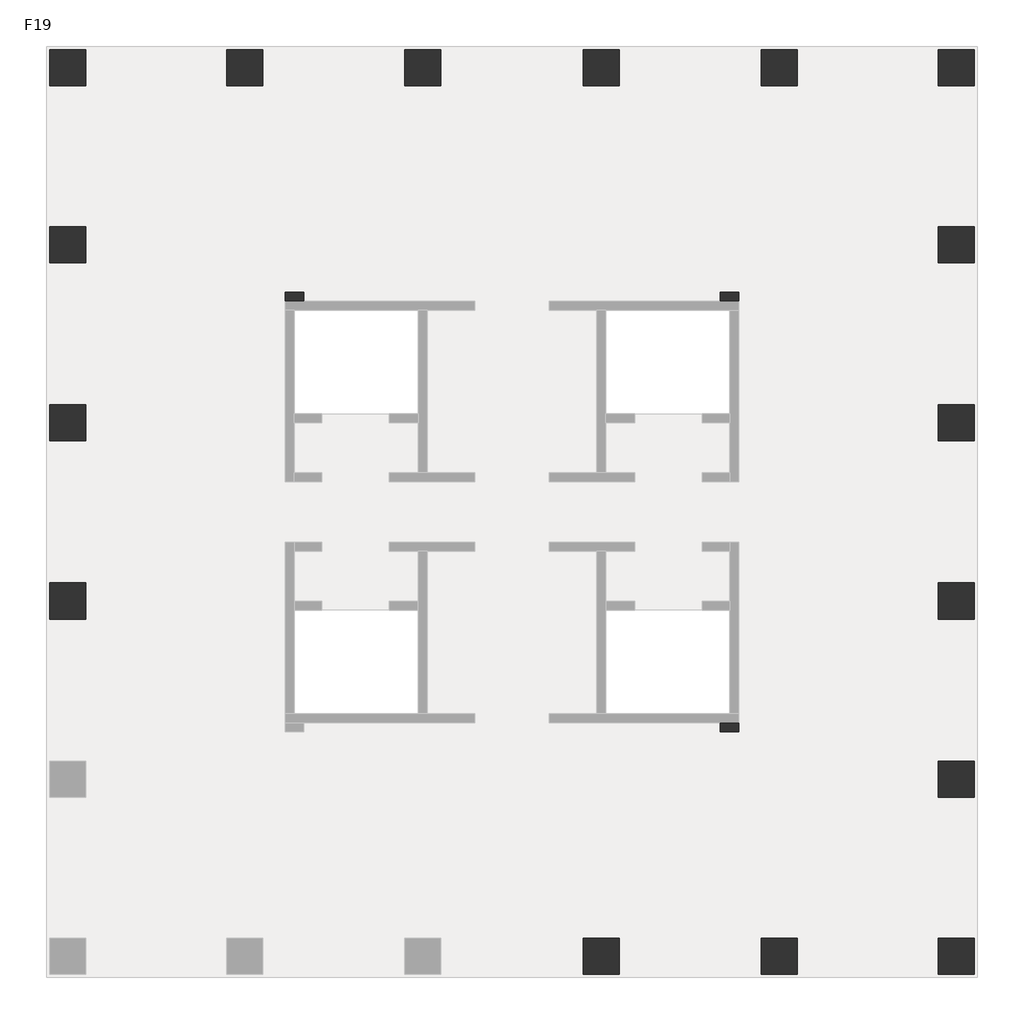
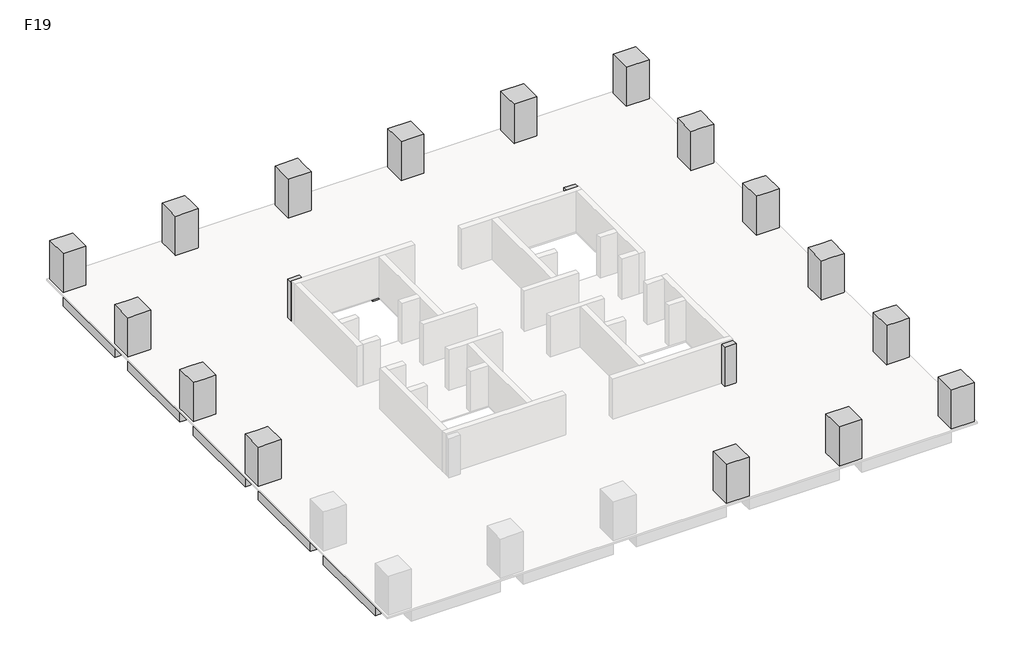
# One storey, part 2 of 2: 19 columns, 17 beams.
"""IFC4 building model written with IfcOpenShell, lengths in millimetres."""

from ifc_helpers import new_model, si_unit, frame, origin, place, context, project, spatial, polyline, outline, extrude, faceted_brep, element, save

model = new_model("IFC4")

# Units and contexts
model_context = context("Model", 3, world=origin())
ifc_project = project(units=[si_unit("LENGTHUNIT", "METRE", prefix="MILLI")], contexts=[model_context])

# Site, building, storey
site = spatial("IfcSite", under=ifc_project)
building = spatial("IfcBuilding", under=site)
storey = spatial("IfcBuildingStorey", under=building, Name="F19", Elevation=75000.0)

# Beams
placement = place(None, origin())
element("IfcBeam", 1, ObjectType="混凝土 - 矩形梁 : KL(5)-800x1000", at=placement, inside=storey, context=model_context, shape_type="SweptSolid", body=[
    extrude(outline(polyline([(25327.3257831, 27051.0498658), (25327.3257831, 26251.0498658), (19077.3257831, 26251.0498658), (19077.3257831, 27051.0498658), (25327.3257831, 27051.0498658)])), frame((0.0, 0.0, 74000.0), z_axis=(0.0, 0.0, 1.0), x_axis=(1.0, 0.0, 0.0)), (0.0, 0.0, 1.0), 900.0),
    extrude(outline(polyline([(-12472.6742169, 26251.0498658), (-12472.6742169, 27051.0498658), (-6222.6742169, 27051.0498658), (-6222.6742169, 26251.0498658), (-12472.6742169, 26251.0498658)])), frame((0.0, 0.0, 74000.0), z_axis=(0.0, 0.0, 1.0), x_axis=(1.0, 0.0, 0.0)), (0.0, 0.0, 1.0), 900.0),
    extrude(outline(polyline([(-4622.6742169, 26251.0498658), (-4622.6742169, 27051.0498658), (1677.3257831, 27051.0498658), (1677.3257831, 26251.0498658), (-4622.6742169, 26251.0498658)])), frame((0.0, 0.0, 74000.0), z_axis=(0.0, 0.0, 1.0), x_axis=(1.0, 0.0, 0.0)), (0.0, 0.0, 1.0), 900.0),
    extrude(outline(polyline([(3277.3257831, 26251.0498658), (3277.3257831, 27051.0498658), (9577.3257831, 27051.0498658), (9577.3257831, 26251.0498658), (3277.3257831, 26251.0498658)])), frame((0.0, 0.0, 74000.0), z_axis=(0.0, 0.0, 1.0), x_axis=(1.0, 0.0, 0.0)), (0.0, 0.0, 1.0), 900.0),
    extrude(outline(polyline([(11177.3257831, 26251.0498658), (11177.3257831, 27051.0498658), (17477.3257831, 27051.0498658), (17477.3257831, 26251.0498658), (11177.3257831, 26251.0498658)])), frame((0.0, 0.0, 74000.0), z_axis=(0.0, 0.0, 1.0), x_axis=(1.0, 0.0, 0.0)), (0.0, 0.0, 1.0), 900.0),
])
element("IfcBeam", 2, ObjectType="混凝土 - 矩形梁 : KL(5)-800x1000", at=placement, inside=storey, context=model_context, shape_type="SweptSolid", body=[
    extrude(outline(polyline([(26927.3257831, -12348.9501342), (26127.3257831, -12348.9501342), (26127.3257831, -6098.9501342), (26927.3257831, -6098.9501342), (26927.3257831, -12348.9501342)])), frame((0.0, 0.0, 74000.0), z_axis=(0.0, 0.0, 1.0), x_axis=(1.0, 0.0, 0.0)), (0.0, 0.0, 1.0), 900.0),
    extrude(outline(polyline([(26127.3257831, 25451.0498658), (26927.3257831, 25451.0498658), (26927.3257831, 19201.0498658), (26127.3257831, 19201.0498658), (26127.3257831, 25451.0498658)])), frame((0.0, 0.0, 74000.0), z_axis=(0.0, 0.0, 1.0), x_axis=(1.0, 0.0, 0.0)), (0.0, 0.0, 1.0), 900.0),
    extrude(outline(polyline([(26127.3257831, 17601.0498658), (26927.3257831, 17601.0498658), (26927.3257831, 11301.0498658), (26127.3257831, 11301.0498658), (26127.3257831, 17601.0498658)])), frame((0.0, 0.0, 74000.0), z_axis=(0.0, 0.0, 1.0), x_axis=(1.0, 0.0, 0.0)), (0.0, 0.0, 1.0), 900.0),
    extrude(outline(polyline([(26127.3257831, 9701.0498658), (26927.3257831, 9701.0498658), (26927.3257831, 3401.0498658), (26127.3257831, 3401.0498658), (26127.3257831, 9701.0498658)])), frame((0.0, 0.0, 74000.0), z_axis=(0.0, 0.0, 1.0), x_axis=(1.0, 0.0, 0.0)), (0.0, 0.0, 1.0), 900.0),
    extrude(outline(polyline([(26127.3257831, 1801.0498658), (26927.3257831, 1801.0498658), (26927.3257831, -4498.9501342), (26127.3257831, -4498.9501342), (26127.3257831, 1801.0498658)])), frame((0.0, 0.0, 74000.0), z_axis=(0.0, 0.0, 1.0), x_axis=(1.0, 0.0, 0.0)), (0.0, 0.0, 1.0), 900.0),
])
element("IfcBeam", 3, ObjectType="混凝土 - 矩形梁 : KL(5)-800x1000", at=placement, inside=storey, context=model_context, shape_type="SweptSolid", body=[
    extrude(outline(polyline([(-14072.6742169, 25451.0498658), (-13272.6742169, 25451.0498658), (-13272.6742169, 19201.0498658), (-14072.6742169, 19201.0498658), (-14072.6742169, 25451.0498658)])), frame((0.0, 0.0, 74000.0), z_axis=(0.0, 0.0, 1.0), x_axis=(1.0, 0.0, 0.0)), (0.0, 0.0, 1.0), 900.0),
    extrude(outline(polyline([(-13272.6742169, -12348.9501342), (-14072.6742169, -12348.9501342), (-14072.6742169, -6098.9501342), (-13272.6742169, -6098.9501342), (-13272.6742169, -12348.9501342)])), frame((0.0, 0.0, 74000.0), z_axis=(0.0, 0.0, 1.0), x_axis=(1.0, 0.0, 0.0)), (0.0, 0.0, 1.0), 900.0),
    extrude(outline(polyline([(-14072.6742169, 17601.0498658), (-13272.6742169, 17601.0498658), (-13272.6742169, 11301.0498658), (-14072.6742169, 11301.0498658), (-14072.6742169, 17601.0498658)])), frame((0.0, 0.0, 74000.0), z_axis=(0.0, 0.0, 1.0), x_axis=(1.0, 0.0, 0.0)), (0.0, 0.0, 1.0), 900.0),
    extrude(outline(polyline([(-14072.6742169, 9701.0498658), (-13272.6742169, 9701.0498658), (-13272.6742169, 3401.0498658), (-14072.6742169, 3401.0498658), (-14072.6742169, 9701.0498658)])), frame((0.0, 0.0, 74000.0), z_axis=(0.0, 0.0, 1.0), x_axis=(1.0, 0.0, 0.0)), (0.0, 0.0, 1.0), 900.0),
    extrude(outline(polyline([(-14072.6742169, 1801.0498658), (-13272.6742169, 1801.0498658), (-13272.6742169, -4498.9501342), (-14072.6742169, -4498.9501342), (-14072.6742169, 1801.0498658)])), frame((0.0, 0.0, 74000.0), z_axis=(0.0, 0.0, 1.0), x_axis=(1.0, 0.0, 0.0)), (0.0, 0.0, 1.0), 900.0),
])
element("IfcBeam", 4, ObjectType="混凝土 - 矩形梁 : L1-800x500", at=placement, inside=storey, context=model_context, shape_type="SweptSolid", body=[
    extrude(outline(polyline([(-12472.6742169, 2201.0498658), (-12472.6742169, 3001.0498658), (-3622.6742169, 3001.0498658), (-3622.6742169, 2201.0498658), (-12472.6742169, 2201.0498658)])), frame((0.0, 0.0, 74500.0), z_axis=(0.0, 0.0, 1.0), x_axis=(1.0, 0.0, 0.0)), (0.0, 0.0, 1.0), 400.0),
])
element("IfcBeam", 5, ObjectType="混凝土 - 矩形梁 : L1-800x500", at=placement, inside=storey, context=model_context, shape_type="SweptSolid", body=[
    extrude(outline(polyline([(-12472.6742169, 10101.0498658), (-12472.6742169, 10901.0498658), (-3622.6742169, 10901.0498658), (-3622.6742169, 10101.0498658), (-12472.6742169, 10101.0498658)])), frame((0.0, 0.0, 74500.0), z_axis=(0.0, 0.0, 1.0), x_axis=(1.0, 0.0, 0.0)), (0.0, 0.0, 1.0), 400.0),
])
element("IfcBeam", 6, ObjectType="混凝土 - 矩形梁 : L1-800x500", at=placement, inside=storey, context=model_context, shape_type="Brep", body=[
    faceted_brep([(-12472.6742169, 17789.85471, 74500.0), (-3622.6742169, 15588.3621727, 74500.0), (-3622.6742169, 15588.3621727, 74900.0), (-12472.6742169, 17789.85471, 74900.0), (-3173.6696907, 16301.0498658, 74500.0), (-3622.6742169, 16301.0498658, 74500.0), (-3622.6742169, 15901.0498658, 74500.0), (-12472.6742169, 18614.2350714, 74500.0), (-3746.9473979, 16443.6562607, 74500.0), (-12472.6742169, 18614.2350714, 74900.0), (-3746.9473979, 16443.6562607, 74900.0), (-3173.6696907, 16301.0498658, 74900.0), (-3622.6742169, 16301.0498658, 74900.0)], [[[0, 1, 2, 3]], [[4, 5, 6, 1, 0, 7, 8]], [[4, 8, 7, 9, 10, 11]], [[6, 5, 12, 2, 1]], [[5, 4, 11, 12]], [[7, 0, 3, 9]], [[3, 2, 12, 11, 10, 9]]]),
])
element("IfcBeam", 7, ObjectType="混凝土 - 矩形梁 : L1-800x500", at=placement, inside=storey, context=model_context, shape_type="SweptSolid", body=[
    extrude(outline(polyline([(-3173.6696907, 16301.0498658), (-3746.9473979, 16443.6562607), (-5661.5624638, 25451.0498658), (-4843.6893517, 25451.0498658), (-2898.7618154, 16301.0498658), (-3173.6696907, 16301.0498658)])), frame((0.0, 0.0, 74500.0), z_axis=(0.0, 0.0, 1.0), x_axis=(1.0, 0.0, 0.0)), (0.0, 0.0, 1.0), 400.0),
])
element("IfcBeam", 8, ObjectType="混凝土 - 矩形梁 : L1-800x500", at=placement, inside=storey, context=model_context, shape_type="SweptSolid", body=[
    extrude(outline(polyline([(2077.3257831, 25451.0498658), (2877.3257831, 25451.0498658), (2877.3257831, 15901.0498658), (2077.3257831, 15901.0498658), (2077.3257831, 25451.0498658)])), frame((0.0, 0.0, 74500.0), z_axis=(0.0, 0.0, 1.0), x_axis=(1.0, 0.0, 0.0)), (0.0, 0.0, 1.0), 400.0),
])
element("IfcBeam", 9, ObjectType="混凝土 - 矩形梁 : L1-800x500", at=placement, inside=storey, context=model_context, shape_type="SweptSolid", body=[
    extrude(outline(polyline([(9977.3257831, 25451.0498658), (10777.3257831, 25451.0498658), (10777.3257831, 15901.0498658), (9977.3257831, 15901.0498658), (9977.3257831, 25451.0498658)])), frame((0.0, 0.0, 74500.0), z_axis=(0.0, 0.0, 1.0), x_axis=(1.0, 0.0, 0.0)), (0.0, 0.0, 1.0), 400.0),
])
element("IfcBeam", 10, ObjectType="混凝土 - 矩形梁 : L1-800x500", at=placement, inside=storey, context=model_context, shape_type="SweptSolid", body=[
    extrude(outline(polyline([(2877.3257831, -12348.9501342), (2077.3257831, -12348.9501342), (2077.3257831, -2798.9501342), (2877.3257831, -2798.9501342), (2877.3257831, -12348.9501342)])), frame((0.0, 0.0, 74500.0), z_axis=(0.0, 0.0, 1.0), x_axis=(1.0, 0.0, 0.0)), (0.0, 0.0, 1.0), 400.0),
])
element("IfcBeam", 11, ObjectType="混凝土 - 矩形梁 : L1-800x500", at=placement, inside=storey, context=model_context, shape_type="SweptSolid", body=[
    extrude(outline(polyline([(10777.3257831, -12348.9501342), (9977.3257831, -12348.9501342), (9977.3257831, -2798.9501342), (10777.3257831, -2798.9501342), (10777.3257831, -12348.9501342)])), frame((0.0, 0.0, 74500.0), z_axis=(0.0, 0.0, 1.0), x_axis=(1.0, 0.0, 0.0)), (0.0, 0.0, 1.0), 400.0),
])
element("IfcBeam", 12, ObjectType="混凝土 - 矩形梁 : L1-800x500", at=placement, inside=storey, context=model_context, shape_type="Brep", body=[
    faceted_brep([(25327.3257831, -4687.7549784, 74500.0), (16477.3257831, -2486.2624411, 74500.0), (16477.3257831, -2486.2624411, 74900.0), (25327.3257831, -4687.7549784, 74900.0), (16028.3212569, -3198.9501342, 74500.0), (16477.3257831, -3198.9501342, 74500.0), (16477.3257831, -2798.9501342, 74500.0), (25327.3257831, -5512.1353397, 74500.0), (16601.5989641, -3341.556529, 74500.0), (25327.3257831, -5512.1353397, 74900.0), (16601.5989641, -3341.556529, 74900.0), (16028.3212569, -3198.9501342, 74900.0), (16477.3257831, -3198.9501342, 74900.0)], [[[0, 1, 2, 3]], [[4, 5, 6, 1, 0, 7, 8]], [[4, 8, 7, 9, 10, 11]], [[6, 5, 12, 2, 1]], [[5, 4, 11, 12]], [[7, 0, 3, 9]], [[3, 2, 12, 11, 10, 9]]]),
])
element("IfcBeam", 13, ObjectType="混凝土 - 矩形梁 : L1-800x500", at=placement, inside=storey, context=model_context, shape_type="SweptSolid", body=[
    extrude(outline(polyline([(16028.3212569, -3198.9501342), (16601.5989641, -3341.556529), (18516.21403, -12348.9501342), (17698.3409179, -12348.9501342), (15753.4133817, -3198.9501342), (16028.3212569, -3198.9501342)])), frame((0.0, 0.0, 74500.0), z_axis=(0.0, 0.0, 1.0), x_axis=(1.0, 0.0, 0.0)), (0.0, 0.0, 1.0), 400.0),
])
element("IfcBeam", 14, ObjectType="混凝土 - 矩形梁 : L1-800x500", at=placement, inside=storey, context=model_context, shape_type="SweptSolid", body=[
    extrude(outline(polyline([(25327.3257831, 3001.0498658), (25327.3257831, 2201.0498658), (16477.3257831, 2201.0498658), (16477.3257831, 3001.0498658), (25327.3257831, 3001.0498658)])), frame((0.0, 0.0, 74500.0), z_axis=(0.0, 0.0, 1.0), x_axis=(1.0, 0.0, 0.0)), (0.0, 0.0, 1.0), 400.0),
])
element("IfcBeam", 15, ObjectType="混凝土 - 矩形梁 : L1-800x500", at=placement, inside=storey, context=model_context, shape_type="SweptSolid", body=[
    extrude(outline(polyline([(25327.3257831, 10901.0498658), (25327.3257831, 10101.0498658), (16477.3257831, 10101.0498658), (16477.3257831, 10901.0498658), (25327.3257831, 10901.0498658)])), frame((0.0, 0.0, 74500.0), z_axis=(0.0, 0.0, 1.0), x_axis=(1.0, 0.0, 0.0)), (0.0, 0.0, 1.0), 400.0),
])
element("IfcBeam", 16, ObjectType="混凝土 - 矩形梁 : L1-800x500", at=placement, inside=storey, context=model_context, shape_type="Brep", body=[
    faceted_brep([(25327.3257831, 18610.6867312, 74500.0), (16590.8993897, 16393.3196262, 74500.0), (16227.3565337, 16301.0498658, 74500.0), (16227.3565337, 16301.0498658, 74900.0), (16590.8993897, 16393.3196262, 74900.0), (25327.3257831, 18610.6867312, 74900.0), (16477.3257831, 16301.0498658, 74500.0), (25327.3257831, 17785.3216299, 74500.0), (16477.3257831, 15539.1287365, 74500.0), (16477.3257831, 15901.0498658, 74500.0), (25327.3257831, 17785.3216299, 74900.0), (16477.3257831, 15539.1287365, 74900.0), (16477.3257831, 16301.0498658, 74900.0)], [[[0, 1, 2, 3, 4, 5]], [[6, 2, 1, 0, 7, 8, 9]], [[8, 7, 10, 11]], [[9, 8, 11, 12, 6]], [[2, 6, 12, 3]], [[7, 0, 5, 10]], [[5, 4, 3, 12, 11, 10]]]),
])
element("IfcBeam", 17, ObjectType="混凝土 - 矩形梁 : L1-800x500", at=placement, inside=storey, context=model_context, shape_type="SweptSolid", body=[
    extrude(outline(polyline([(16590.8993897, 16393.3196262), (16227.3565337, 16301.0498658), (15753.4133817, 16301.0498658), (17698.3409179, 25451.0498658), (18516.21403, 25451.0498658), (16590.8993897, 16393.3196262)])), frame((0.0, 0.0, 74500.0), z_axis=(0.0, 0.0, 1.0), x_axis=(1.0, 0.0, 0.0)), (0.0, 0.0, 1.0), 400.0),
])

# Columns
element("IfcColumn", 18, ObjectType="混凝土 - 矩形 - 柱 : Z1-1600x1600", at=placement, inside=storey, context=model_context, shape_type="SweptSolid", body=[
    extrude(outline(polyline([(-12472.6742169, 27051.0498658), (-12472.6742169, 25451.0498658), (-14072.6742169, 25451.0498658), (-14072.6742169, 27051.0498658), (-12472.6742169, 27051.0498658)])), frame((0.0, 0.0, 75000.0), z_axis=(0.0, 0.0, 1.0), x_axis=(1.0, 0.0, 0.0)), (0.0, 0.0, 1.0), 2900.0),
])
element("IfcColumn", 19, ObjectType="混凝土 - 矩形 - 柱 : Z1-1600x1600", at=placement, inside=storey, context=model_context, shape_type="Brep", body=[
    faceted_brep([(-4622.6742169, 27051.0498658, 75000.0), (-4622.6742169, 25451.0498658, 75000.0), (-6222.6742169, 25451.0498658, 75000.0), (-6222.6742169, 27051.0498658, 75000.0), (-4622.6742169, 27051.0498658, 77000.0), (-4622.6742169, 27051.0498658, 77900.0), (-4622.6742169, 26251.0498658, 77900.0), (-4622.6742169, 25451.0498658, 77900.0), (-6222.6742169, 25451.0498658, 77900.0), (-6222.6742169, 26251.0498658, 77900.0), (-6222.6742169, 27051.0498658, 77900.0), (-6222.6742169, 27051.0498658, 77000.0)], [[[0, 1, 2, 3]], [[1, 0, 4, 5, 6, 7]], [[2, 1, 7, 8]], [[3, 2, 8, 9, 10, 11]], [[0, 3, 11, 10, 5, 4]], [[7, 6, 5, 10, 9, 8]]]),
])
element("IfcColumn", 20, ObjectType="混凝土 - 矩形 - 柱 : Z1-1600x1600", at=placement, inside=storey, context=model_context, shape_type="Brep", body=[
    faceted_brep([(-12472.6742169, 19201.0498658, 75000.0), (-12472.6742169, 17601.0498658, 75000.0), (-14072.6742169, 17601.0498658, 75000.0), (-14072.6742169, 19201.0498658, 75000.0), (-12472.6742169, 19201.0498658, 77900.0), (-12472.6742169, 17601.0498658, 77900.0), (-13272.6742169, 17601.0498658, 77900.0), (-14072.6742169, 17601.0498658, 77900.0), (-14072.6742169, 17601.0498658, 77000.0), (-14072.6742169, 19201.0498658, 77900.0), (-14072.6742169, 19201.0498658, 77000.0), (-13272.6742169, 19201.0498658, 77900.0)], [[[0, 1, 2, 3]], [[1, 0, 4, 5]], [[2, 1, 5, 6, 7, 8]], [[3, 2, 8, 7, 9, 10]], [[0, 3, 10, 9, 11, 4]], [[5, 4, 11, 9, 7, 6]]]),
])
element("IfcColumn", 21, ObjectType="混凝土 - 矩形 - 柱 : Z1-1600x1600", at=placement, inside=storey, context=model_context, shape_type="Brep", body=[
    faceted_brep([(-12472.6742169, 11301.0498658, 75000.0), (-12472.6742169, 9701.0498658, 75000.0), (-14072.6742169, 9701.0498658, 75000.0), (-14072.6742169, 11301.0498658, 75000.0), (-12472.6742169, 11301.0498658, 77900.0), (-12472.6742169, 9701.0498658, 77900.0), (-13272.6742169, 9701.0498658, 77900.0), (-14072.6742169, 9701.0498658, 77900.0), (-14072.6742169, 9701.0498658, 77000.0), (-14072.6742169, 11301.0498658, 77900.0), (-14072.6742169, 11301.0498658, 77000.0), (-13272.6742169, 11301.0498658, 77900.0)], [[[0, 1, 2, 3]], [[1, 0, 4, 5]], [[2, 1, 5, 6, 7, 8]], [[3, 2, 8, 7, 9, 10]], [[0, 3, 10, 9, 11, 4]], [[5, 4, 11, 9, 7, 6]]]),
])
element("IfcColumn", 22, ObjectType="混凝土 - 矩形 - 柱 : Z1-1600x1600", at=placement, inside=storey, context=model_context, shape_type="Brep", body=[
    faceted_brep([(-12472.6742169, 3401.0498658, 75000.0), (-12472.6742169, 1801.0498658, 75000.0), (-14072.6742169, 1801.0498658, 75000.0), (-14072.6742169, 3401.0498658, 75000.0), (-12472.6742169, 3401.0498658, 77900.0), (-12472.6742169, 1801.0498658, 77900.0), (-13272.6742169, 1801.0498658, 77900.0), (-14072.6742169, 1801.0498658, 77900.0), (-14072.6742169, 1801.0498658, 77000.0), (-14072.6742169, 3401.0498658, 77900.0), (-14072.6742169, 3401.0498658, 77000.0), (-13272.6742169, 3401.0498658, 77900.0)], [[[0, 1, 2, 3]], [[1, 0, 4, 5]], [[2, 1, 5, 6, 7, 8]], [[3, 2, 8, 7, 9, 10]], [[0, 3, 10, 9, 11, 4]], [[5, 4, 11, 9, 7, 6]]]),
])
element("IfcColumn", 23, ObjectType="混凝土 - 矩形 - 柱 : Z1-1600x1600", at=placement, inside=storey, context=model_context, shape_type="SweptSolid", body=[
    extrude(outline(polyline([(25327.3257831, 27051.0498658), (26927.3257831, 27051.0498658), (26927.3257831, 25451.0498658), (25327.3257831, 25451.0498658), (25327.3257831, 27051.0498658)])), frame((0.0, 0.0, 75000.0), z_axis=(0.0, 0.0, 1.0), x_axis=(1.0, 0.0, 0.0)), (0.0, 0.0, 1.0), 2900.0),
])
element("IfcColumn", 24, ObjectType="混凝土 - 矩形 - 柱 : Z1-1600x1600", at=placement, inside=storey, context=model_context, shape_type="Brep", body=[
    faceted_brep([(25327.3257831, 19201.0498658, 75000.0), (26927.3257831, 19201.0498658, 75000.0), (26927.3257831, 17601.0498658, 75000.0), (25327.3257831, 17601.0498658, 75000.0), (25327.3257831, 17601.0498658, 77900.0), (25327.3257831, 19201.0498658, 77900.0), (26927.3257831, 17601.0498658, 77000.0), (26927.3257831, 17601.0498658, 77900.0), (26127.3257831, 17601.0498658, 77900.0), (26927.3257831, 19201.0498658, 77000.0), (26927.3257831, 19201.0498658, 77900.0), (26127.3257831, 19201.0498658, 77900.0)], [[[0, 1, 2, 3]], [[0, 3, 4, 5]], [[3, 2, 6, 7, 8, 4]], [[2, 1, 9, 10, 7, 6]], [[1, 0, 5, 11, 10, 9]], [[5, 4, 8, 7, 10, 11]]]),
])
element("IfcColumn", 25, ObjectType="混凝土 - 矩形 - 柱 : Z1-1600x1600", at=placement, inside=storey, context=model_context, shape_type="Brep", body=[
    faceted_brep([(25327.3257831, 11301.0498658, 75000.0), (26927.3257831, 11301.0498658, 75000.0), (26927.3257831, 9701.0498658, 75000.0), (25327.3257831, 9701.0498658, 75000.0), (25327.3257831, 9701.0498658, 77900.0), (25327.3257831, 11301.0498658, 77900.0), (26927.3257831, 9701.0498658, 77000.0), (26927.3257831, 9701.0498658, 77900.0), (26127.3257831, 9701.0498658, 77900.0), (26927.3257831, 11301.0498658, 77000.0), (26927.3257831, 11301.0498658, 77900.0), (26127.3257831, 11301.0498658, 77900.0)], [[[0, 1, 2, 3]], [[0, 3, 4, 5]], [[3, 2, 6, 7, 8, 4]], [[2, 1, 9, 10, 7, 6]], [[1, 0, 5, 11, 10, 9]], [[5, 4, 8, 7, 10, 11]]]),
])
element("IfcColumn", 26, ObjectType="混凝土 - 矩形 - 柱 : Z1-1600x1600", at=placement, inside=storey, context=model_context, shape_type="Brep", body=[
    faceted_brep([(25327.3257831, 3401.0498658, 75000.0), (26927.3257831, 3401.0498658, 75000.0), (26927.3257831, 1801.0498658, 75000.0), (25327.3257831, 1801.0498658, 75000.0), (25327.3257831, 1801.0498658, 77900.0), (25327.3257831, 3401.0498658, 77900.0), (26927.3257831, 1801.0498658, 77000.0), (26927.3257831, 1801.0498658, 77900.0), (26127.3257831, 1801.0498658, 77900.0), (26927.3257831, 3401.0498658, 77000.0), (26927.3257831, 3401.0498658, 77900.0), (26127.3257831, 3401.0498658, 77900.0)], [[[0, 1, 2, 3]], [[0, 3, 4, 5]], [[3, 2, 6, 7, 8, 4]], [[2, 1, 9, 10, 7, 6]], [[1, 0, 5, 11, 10, 9]], [[5, 4, 8, 7, 10, 11]]]),
])
element("IfcColumn", 27, ObjectType="混凝土 - 矩形 - 柱 : Z1-1600x1600", at=placement, inside=storey, context=model_context, shape_type="Brep", body=[
    faceted_brep([(25327.3257831, -4498.9501342, 75000.0), (26927.3257831, -4498.9501342, 75000.0), (26927.3257831, -6098.9501342, 75000.0), (25327.3257831, -6098.9501342, 75000.0), (25327.3257831, -6098.9501342, 77900.0), (25327.3257831, -4498.9501342, 77900.0), (26927.3257831, -6098.9501342, 77000.0), (26927.3257831, -6098.9501342, 77900.0), (26127.3257831, -6098.9501342, 77900.0), (26927.3257831, -4498.9501342, 77000.0), (26927.3257831, -4498.9501342, 77900.0), (26127.3257831, -4498.9501342, 77900.0)], [[[0, 1, 2, 3]], [[0, 3, 4, 5]], [[3, 2, 6, 7, 8, 4]], [[2, 1, 9, 10, 7, 6]], [[1, 0, 5, 11, 10, 9]], [[5, 4, 8, 7, 10, 11]]]),
])
element("IfcColumn", 28, ObjectType="混凝土 - 矩形 - 柱 : Z1-1600x1600", at=placement, inside=storey, context=model_context, shape_type="SweptSolid", body=[
    extrude(outline(polyline([(25327.3257831, -12348.9501342), (26927.3257831, -12348.9501342), (26927.3257831, -13948.9501342), (25327.3257831, -13948.9501342), (25327.3257831, -12348.9501342)])), frame((0.0, 0.0, 75000.0), z_axis=(0.0, 0.0, 1.0), x_axis=(1.0, 0.0, 0.0)), (0.0, 0.0, 1.0), 2900.0),
])
element("IfcColumn", 29, ObjectType="混凝土 - 矩形 - 柱 : Z1-1600x1600", at=placement, inside=storey, context=model_context, shape_type="Brep", body=[
    faceted_brep([(3277.3257831, 27051.0498658, 75000.0), (3277.3257831, 25451.0498658, 75000.0), (1677.3257831, 25451.0498658, 75000.0), (1677.3257831, 27051.0498658, 75000.0), (3277.3257831, 27051.0498658, 77000.0), (3277.3257831, 27051.0498658, 77900.0), (3277.3257831, 26251.0498658, 77900.0), (3277.3257831, 25451.0498658, 77900.0), (1677.3257831, 25451.0498658, 77900.0), (1677.3257831, 26251.0498658, 77900.0), (1677.3257831, 27051.0498658, 77900.0), (1677.3257831, 27051.0498658, 77000.0)], [[[0, 1, 2, 3]], [[1, 0, 4, 5, 6, 7]], [[2, 1, 7, 8]], [[3, 2, 8, 9, 10, 11]], [[0, 3, 11, 10, 5, 4]], [[7, 6, 5, 10, 9, 8]]]),
])
element("IfcColumn", 30, ObjectType="混凝土 - 矩形 - 柱 : Z1-1600x1600", at=placement, inside=storey, context=model_context, shape_type="Brep", body=[
    faceted_brep([(11177.3257831, 27051.0498658, 75000.0), (11177.3257831, 25451.0498658, 75000.0), (9577.3257831, 25451.0498658, 75000.0), (9577.3257831, 27051.0498658, 75000.0), (11177.3257831, 27051.0498658, 77000.0), (11177.3257831, 27051.0498658, 77900.0), (11177.3257831, 26251.0498658, 77900.0), (11177.3257831, 25451.0498658, 77900.0), (9577.3257831, 25451.0498658, 77900.0), (9577.3257831, 26251.0498658, 77900.0), (9577.3257831, 27051.0498658, 77900.0), (9577.3257831, 27051.0498658, 77000.0)], [[[0, 1, 2, 3]], [[1, 0, 4, 5, 6, 7]], [[2, 1, 7, 8]], [[3, 2, 8, 9, 10, 11]], [[0, 3, 11, 10, 5, 4]], [[7, 6, 5, 10, 9, 8]]]),
])
element("IfcColumn", 31, ObjectType="混凝土 - 矩形 - 柱 : Z1-1600x1600", at=placement, inside=storey, context=model_context, shape_type="Brep", body=[
    faceted_brep([(19077.3257831, 27051.0498658, 75000.0), (19077.3257831, 25451.0498658, 75000.0), (17477.3257831, 25451.0498658, 75000.0), (17477.3257831, 27051.0498658, 75000.0), (19077.3257831, 27051.0498658, 77000.0), (19077.3257831, 27051.0498658, 77900.0), (19077.3257831, 26251.0498658, 77900.0), (19077.3257831, 25451.0498658, 77900.0), (17477.3257831, 25451.0498658, 77900.0), (17477.3257831, 26251.0498658, 77900.0), (17477.3257831, 27051.0498658, 77900.0), (17477.3257831, 27051.0498658, 77000.0)], [[[0, 1, 2, 3]], [[1, 0, 4, 5, 6, 7]], [[2, 1, 7, 8]], [[3, 2, 8, 9, 10, 11]], [[0, 3, 11, 10, 5, 4]], [[7, 6, 5, 10, 9, 8]]]),
])
element("IfcColumn", 32, ObjectType="混凝土 - 矩形 - 柱 : Z1-1600x1600", at=placement, inside=storey, context=model_context, shape_type="Brep", body=[
    faceted_brep([(11177.3257831, -12348.9501342, 75000.0), (11177.3257831, -13948.9501342, 75000.0), (9577.3257831, -13948.9501342, 75000.0), (9577.3257831, -12348.9501342, 75000.0), (11177.3257831, -12348.9501342, 77900.0), (11177.3257831, -13148.9501342, 77900.0), (11177.3257831, -13948.9501342, 77900.0), (11177.3257831, -13948.9501342, 77000.0), (9577.3257831, -13948.9501342, 77900.0), (9577.3257831, -13948.9501342, 77000.0), (9577.3257831, -13148.9501342, 77900.0), (9577.3257831, -12348.9501342, 77900.0)], [[[0, 1, 2, 3]], [[1, 0, 4, 5, 6, 7]], [[2, 1, 7, 6, 8, 9]], [[3, 2, 9, 8, 10, 11]], [[0, 3, 11, 4]], [[6, 5, 4, 11, 10, 8]]]),
])
element("IfcColumn", 33, ObjectType="混凝土 - 矩形 - 柱 : Z1-1600x1600", at=placement, inside=storey, context=model_context, shape_type="Brep", body=[
    faceted_brep([(19077.3257831, -12348.9501342, 75000.0), (19077.3257831, -13948.9501342, 75000.0), (17477.3257831, -13948.9501342, 75000.0), (17477.3257831, -12348.9501342, 75000.0), (19077.3257831, -12348.9501342, 77900.0), (19077.3257831, -13148.9501342, 77900.0), (19077.3257831, -13948.9501342, 77900.0), (19077.3257831, -13948.9501342, 77000.0), (17477.3257831, -13948.9501342, 77900.0), (17477.3257831, -13948.9501342, 77000.0), (17477.3257831, -13148.9501342, 77900.0), (17477.3257831, -12348.9501342, 77900.0)], [[[0, 1, 2, 3]], [[1, 0, 4, 5, 6, 7]], [[2, 1, 7, 6, 8, 9]], [[3, 2, 9, 8, 10, 11]], [[0, 3, 11, 4]], [[6, 5, 4, 11, 10, 8]]]),
])
element("IfcColumn", 34, ObjectType="混凝土 - 矩形 - 柱 : Z2-800x800", at=placement, inside=storey, context=model_context, shape_type="SweptSolid", body=[
    extrude(outline(polyline([(-3622.6742169, 16301.0498658), (-2822.6742169, 16301.0498658), (-2822.6742169, 15901.0498658), (-3622.6742169, 15901.0498658), (-3622.6742169, 16301.0498658)])), frame((0.0, 0.0, 75000.0), z_axis=(0.0, 0.0, 1.0), x_axis=(1.0, 0.0, 0.0)), (0.0, 0.0, 1.0), 2900.0),
])
element("IfcColumn", 35, ObjectType="混凝土 - 矩形 - 柱 : Z2-800x800", at=placement, inside=storey, context=model_context, shape_type="SweptSolid", body=[
    extrude(outline(polyline([(16477.3257831, -3198.9501342), (15677.3257831, -3198.9501342), (15677.3257831, -2798.9501342), (16477.3257831, -2798.9501342), (16477.3257831, -3198.9501342)])), frame((0.0, 0.0, 75000.0), z_axis=(0.0, 0.0, 1.0), x_axis=(1.0, 0.0, 0.0)), (0.0, 0.0, 1.0), 2900.0),
])
element("IfcColumn", 36, ObjectType="混凝土 - 矩形 - 柱 : Z2-800x800", at=placement, inside=storey, context=model_context, shape_type="SweptSolid", body=[
    extrude(outline(polyline([(15677.3257831, 16301.0498658), (16477.3257831, 16301.0498658), (16477.3257831, 15901.0498658), (15677.3257831, 15901.0498658), (15677.3257831, 16301.0498658)])), frame((0.0, 0.0, 75000.0), z_axis=(0.0, 0.0, 1.0), x_axis=(1.0, 0.0, 0.0)), (0.0, 0.0, 1.0), 2900.0),
])

save(model, "model.ifc")
